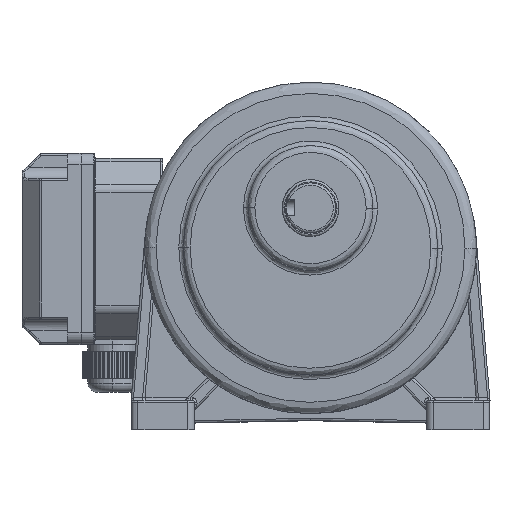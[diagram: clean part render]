
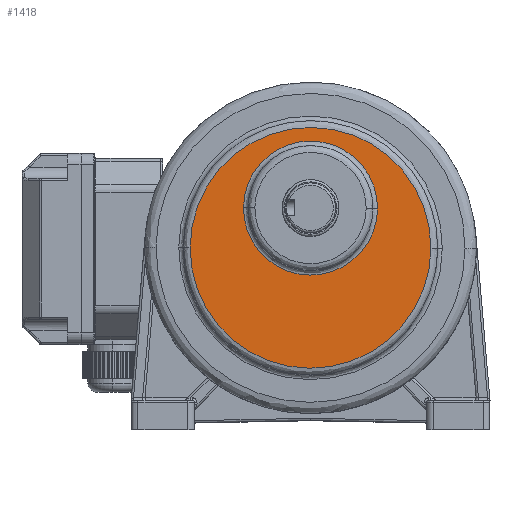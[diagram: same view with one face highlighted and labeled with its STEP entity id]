
A CAD part, top view. The second image highlights one B-rep face of the part: STEP entity #1418.
In plain terms, the highlighted planar face has unit normal (0, 0, 1).
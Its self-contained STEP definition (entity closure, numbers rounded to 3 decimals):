
#1418 = ADVANCED_FACE ( 'NONE', ( #3697, #20560 ), #52757, .T. ) ;
#3010 = CIRCLE ( 'NONE', #95585, 29.5 ) ;
#3091 = CIRCLE ( 'NONE', #30035, 53. ) ;
#3697 = FACE_OUTER_BOUND ( 'NONE', #9528, .T. ) ;
#3817 = EDGE_CURVE ( 'NONE', #34878, #13066, #3091, .T. ) ;
#5333 = EDGE_CURVE ( 'NONE', #30780, #38675, #3010, .T. ) ;
#6503 = ORIENTED_EDGE ( 'NONE', *, *, #38226, .F. ) ;
#6801 = DIRECTION ( 'NONE',  ( -1., 0., 0. ) ) ;
#9528 = EDGE_LOOP ( 'NONE', ( #87230, #57900 ) ) ;
#13066 = VERTEX_POINT ( 'NONE', #53474 ) ;
#13559 = ORIENTED_EDGE ( 'NONE', *, *, #5333, .F. ) ;
#15179 = CIRCLE ( 'NONE', #64052, 29.5 ) ;
#15982 = CARTESIAN_POINT ( 'NONE',  ( 14.344, 114.172, 22.836 ) ) ;
#16205 = CARTESIAN_POINT ( 'NONE',  ( 43.841, 96.278, 22.836 ) ) ;
#20171 = CARTESIAN_POINT ( 'NONE',  ( 73.339, 113.384, 22.836 ) ) ;
#20560 = FACE_BOUND ( 'NONE', #59306, .T. ) ;
#27445 = DIRECTION ( 'NONE',  ( 0., 0., 1. ) ) ;
#28506 = DIRECTION ( 'NONE',  ( 1., 0., 0. ) ) ;
#30035 = AXIS2_PLACEMENT_3D ( 'NONE', #16205, #58409, #73165 ) ;
#30780 = VERTEX_POINT ( 'NONE', #15982 ) ;
#34878 = VERTEX_POINT ( 'NONE', #40427 ) ;
#36409 = CARTESIAN_POINT ( 'NONE',  ( 43.841, 96.278, 22.836 ) ) ;
#38226 = EDGE_CURVE ( 'NONE', #38675, #30780, #15179, .T. ) ;
#38675 = VERTEX_POINT ( 'NONE', #20171 ) ;
#40427 = CARTESIAN_POINT ( 'NONE',  ( -9.158, 96.626, 22.836 ) ) ;
#40651 = DIRECTION ( 'NONE',  ( 0., 0., 1. ) ) ;
#41545 = AXIS2_PLACEMENT_3D ( 'NONE', #87547, #40651, #81212 ) ;
#46597 = CIRCLE ( 'NONE', #41545, 53. ) ;
#49530 = DIRECTION ( 'NONE',  ( -1., 0., 0. ) ) ;
#50061 = CARTESIAN_POINT ( 'NONE',  ( 43.841, 113.778, 22.836 ) ) ;
#52757 = PLANE ( 'NONE',  #71832 ) ;
#53474 = CARTESIAN_POINT ( 'NONE',  ( 96.84, 95.93, 22.836 ) ) ;
#57900 = ORIENTED_EDGE ( 'NONE', *, *, #3817, .T. ) ;
#58409 = DIRECTION ( 'NONE',  ( 0., 0., 1. ) ) ;
#59306 = EDGE_LOOP ( 'NONE', ( #6503, #13559 ) ) ;
#64052 = AXIS2_PLACEMENT_3D ( 'NONE', #71676, #89021, #6801 ) ;
#70372 = EDGE_CURVE ( 'NONE', #13066, #34878, #46597, .T. ) ;
#71676 = CARTESIAN_POINT ( 'NONE',  ( 43.841, 113.778, 22.836 ) ) ;
#71832 = AXIS2_PLACEMENT_3D ( 'NONE', #36409, #27445, #28506 ) ;
#73165 = DIRECTION ( 'NONE',  ( 1., 0., 0. ) ) ;
#81212 = DIRECTION ( 'NONE',  ( 1., 0., 0. ) ) ;
#87230 = ORIENTED_EDGE ( 'NONE', *, *, #70372, .T. ) ;
#87547 = CARTESIAN_POINT ( 'NONE',  ( 43.841, 96.278, 22.836 ) ) ;
#89021 = DIRECTION ( 'NONE',  ( 0., 0., 1. ) ) ;
#90591 = DIRECTION ( 'NONE',  ( 0., 0., 1. ) ) ;
#95585 = AXIS2_PLACEMENT_3D ( 'NONE', #50061, #90591, #49530 ) ;
